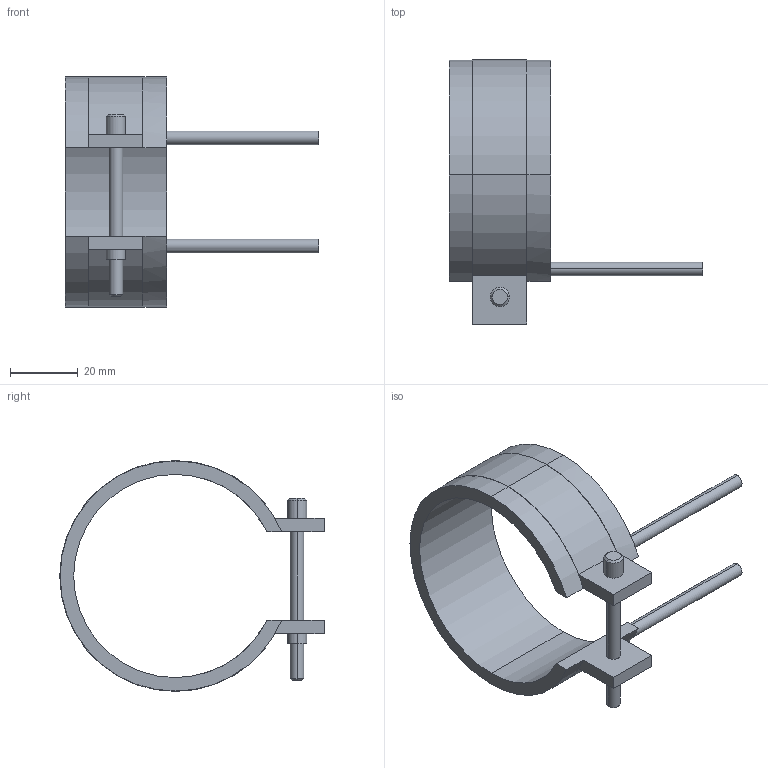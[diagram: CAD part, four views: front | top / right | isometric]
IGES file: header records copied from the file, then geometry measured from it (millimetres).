
Start section: START RECORD GO HERE.
Global section: file name: 14060030.igs; native system: DASSAULT SYSTEMES CATIA V5 R20 - www.3ds.com; preprocessor: CATIA Version 5 Release 20 ; author: Utente; organization: NB04-ASUS; date: 20210401.113117; units: millimetre
Bounding box: 75 x 78.1 x 68.2 mm (x, y, z)
Surface area: 14946.4 mm2 (no closed solid volume)
Topology: 0 solids, 0 shells, 45 faces, 232 edges, 232 vertices
Faces by surface type: revolution 28, plane 17
